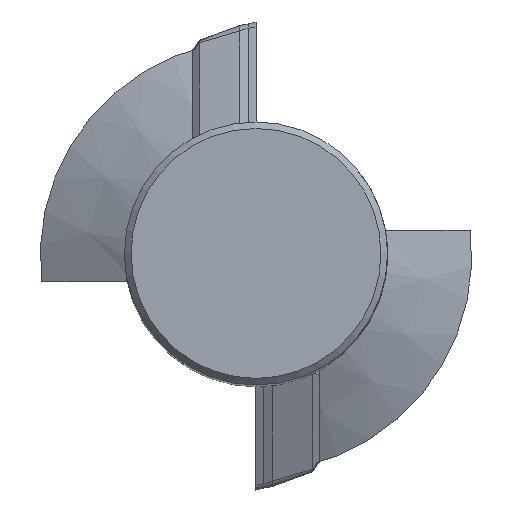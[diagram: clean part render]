
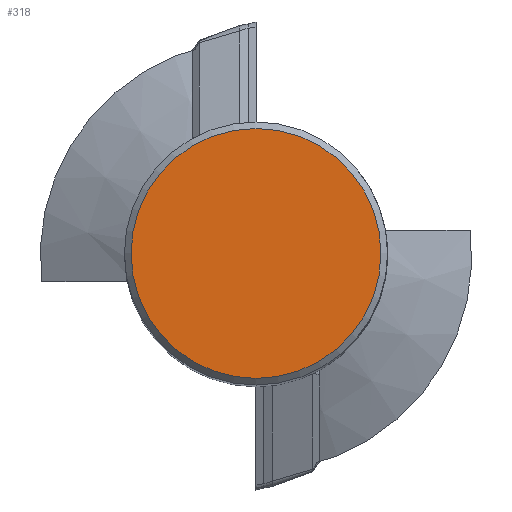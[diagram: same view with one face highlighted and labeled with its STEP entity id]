
A CAD part, top view. The second image highlights one B-rep face of the part: STEP entity #318.
In plain terms, the highlighted planar face has unit normal (0, 0, 1).
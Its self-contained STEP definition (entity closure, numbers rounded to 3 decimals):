
#153=PLANE('',#1521);
#214=FACE_OUTER_BOUND('',#652,.T.);
#318=ADVANCED_FACE('',(#214),#153,.F.);
#652=EDGE_LOOP('',(#765));
#765=ORIENTED_EDGE('',*,*,#1278,.T.);
#1159=VERTEX_POINT('',#2007);
#1278=EDGE_CURVE('',#1159,#1159,#1468,.T.);
#1468=CIRCLE('',#1520,9.5);
#1520=AXIS2_PLACEMENT_3D('',#2006,#1649,#1650);
#1521=AXIS2_PLACEMENT_3D('',#2008,#1651,#1652);
#1649=DIRECTION('',(0.,0.,1.));
#1650=DIRECTION('',(-1.,0.,0.));
#1651=DIRECTION('',(0.,0.,-1.));
#1652=DIRECTION('',(1.,0.,0.));
#2006=CARTESIAN_POINT('',(0.,0.,120.));
#2007=CARTESIAN_POINT('',(-9.5,0.,120.));
#2008=CARTESIAN_POINT('',(0.,10.,120.));
